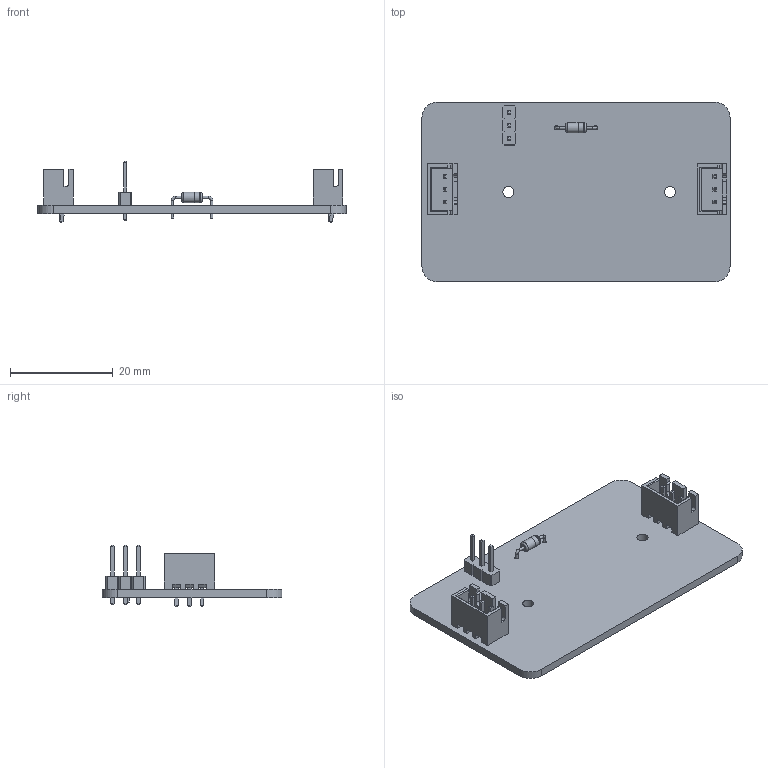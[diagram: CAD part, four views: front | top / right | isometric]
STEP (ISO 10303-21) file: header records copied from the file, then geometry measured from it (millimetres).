
FILE_DESCRIPTION(('KiCad electronic assembly'),'2;1');
FILE_NAME('PCB_Probe.step','2022-06-08T12:18:49',('Pcbnew'),('Kicad'), 'Open CASCADE STEP processor 7.6','KiCad to STEP converter','Unknown' );
FILE_SCHEMA(('AUTOMOTIVE_DESIGN { 1 0 10303 214 1 1 1 1 }'));
Length unit declared in the file: millimetre
Products named in the file (8): PCB_Probe 1; D_DO-35_SOD27_P7.62mm_Horizontal; COMPOUND; JST_XH_B3B-XH-A_1x03_P2.50mm_Vertical; SOLID; PinHeader_1x03_P2.54mm_Vertical; PCB_Probe PCB
Assembly tree (8 placements, depth 3):
  PCB_Probe 1
    D_DO-35_SOD27_P7.62mm_Horizontal
      COMPOUND
    JST_XH_B3B-XH-A_1x03_P2.50mm_Vertical  x2
      SOLID
    PinHeader_1x03_P2.54mm_Vertical
      SOLID
    PCB_Probe PCB
Bounding box: 60 x 35 x 11.94 mm (x, y, z)
Volume: 3802.7 mm3; surface area: 5777.3 mm2
Topology: 6 solids, 6 shells, 349 faces, 885 edges, 568 vertices
Faces by surface type: bspline 326, cylinder 17, plane 6
Full cylindrical faces by diameter (mm): 0.8 x2, 0.95 x6, 1 x3, 2.2 x2
Entity records: 14787 total; most frequent: CARTESIAN_POINT 5109, B_SPLINE_CURVE_WITH_KNOTS 1497, ORIENTED_EDGE 1152, PCURVE 1152, DEFINITIONAL_REPRESENTATION 1152, EDGE_CURVE 576, SURFACE_CURVE 553, VERTEX_POINT 368
